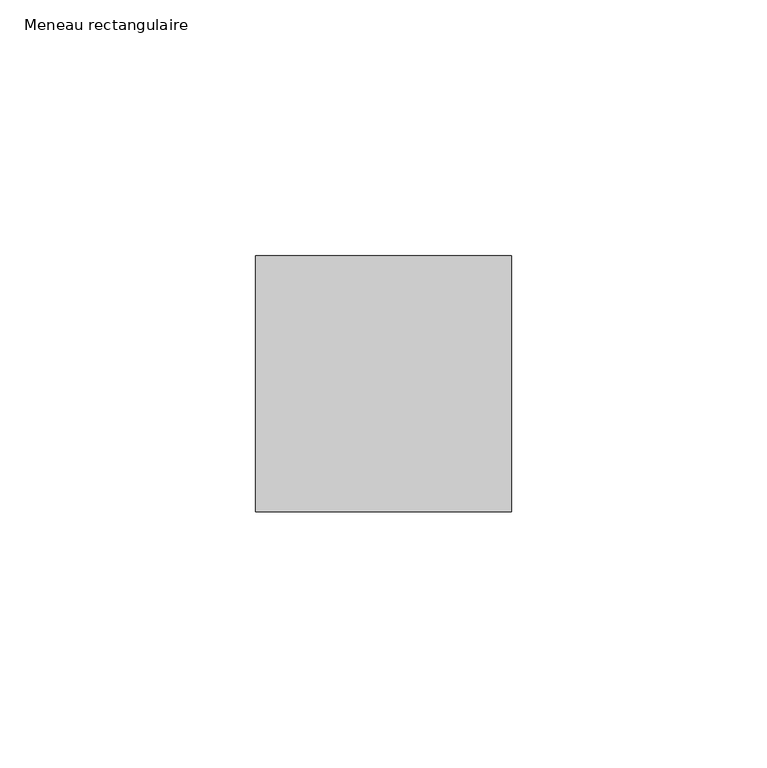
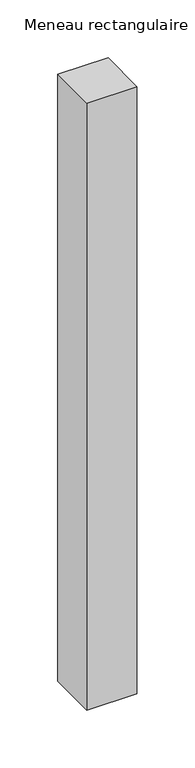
"""IFC4 building model written with IfcOpenShell, lengths in millimetres: member geometry, Meneau rectangulaire : 5x5cm aluminium laqué gris foncé."""

from ifc_helpers import new_model, si_unit, frame, origin, place, context, project, spatial, polyline, outline, extrude, source, transform, mapped, element, save


def meneau_rectangulaire_1ec36c32(model_context):
    return source(origin(), model_context, "Body", "SweptSolid", [
        extrude(outline(polyline([(25.0, 25.0), (25.0, -25.0), (-25.0, -25.0), (-25.0, 25.0), (25.0, 25.0)])), frame((0.0, 0.0, -640.0), z_axis=(0.0, 0.0, 1.0), x_axis=(1.0, 0.0, 0.0)), (0.0, 0.0, 1.0), 640.0),
    ])


if __name__ == "__main__":
    model = new_model("IFC4")
    model_context = context("Model", 3, world=origin())
    ifc_project = project(units=[si_unit("LENGTHUNIT", "METRE", prefix="MILLI")], contexts=[model_context])
    site = spatial("IfcSite", under=ifc_project)
    building = spatial("IfcBuilding", under=site)
    placement = place(None, origin())
    meneau_rectangulaire_shape = meneau_rectangulaire_1ec36c32(model_context)
    element("IfcMember", 1, ObjectType="Meneau rectangulaire : 5x5cm aluminium laqué gris foncé", at=placement, inside=building, context=model_context, shape_type="MappedRepresentation", body=[
        mapped(meneau_rectangulaire_shape, transform((0.0, 0.0, 0.0), x_axis=(1.0, 0.0, 0.0), y_axis=(0.0, 1.0, 0.0), z_axis=(0.0, 0.0, 1.0))),
    ])
    save(model, "model.ifc")
